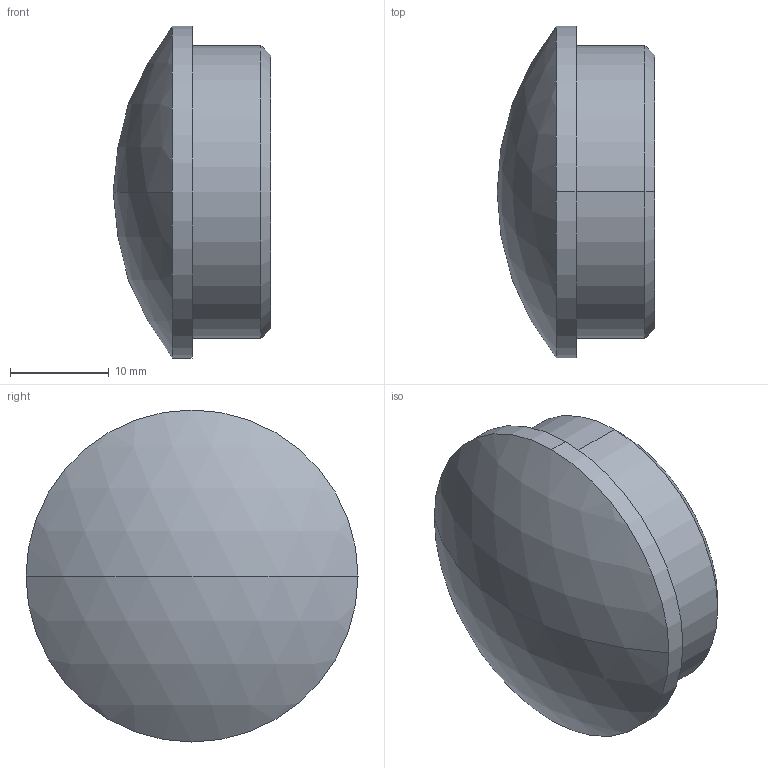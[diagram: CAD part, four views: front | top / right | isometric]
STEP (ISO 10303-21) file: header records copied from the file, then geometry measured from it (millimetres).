
FILE_DESCRIPTION (( 'STEP AP203' ), '1' );
FILE_NAME ('3D_GR1392_DN33.7x2_18380175.STEP', '2024-09-21T10:16:42', ( '' ), ( '' ), 'SwSTEP 2.0', 'SolidWorks 2024', '' );
FILE_SCHEMA (( 'CONFIG_CONTROL_DESIGN' ));
Length unit declared in the file: millimetre
Products named in the file (1): 3D_GR1392_DN33.7x2_18380175
Bounding box: 16 x 33.7 x 33.7 mm (x, y, z)
Volume: 10069.7 mm3; surface area: 2799.3 mm2
Topology: 1 solids, 1 shells, 10 faces, 20 edges, 13 vertices
Faces by surface type: cylinder 4, cone 2, sphere 2, plane 2
Entity records: 347 total; most frequent: DIRECTION 56, CARTESIAN_POINT 44, ORIENTED_EDGE 40, AXIS2_PLACEMENT_3D 25, EDGE_CURVE 20, CIRCLE 14, VERTEX_POINT 13, EDGE_LOOP 11
